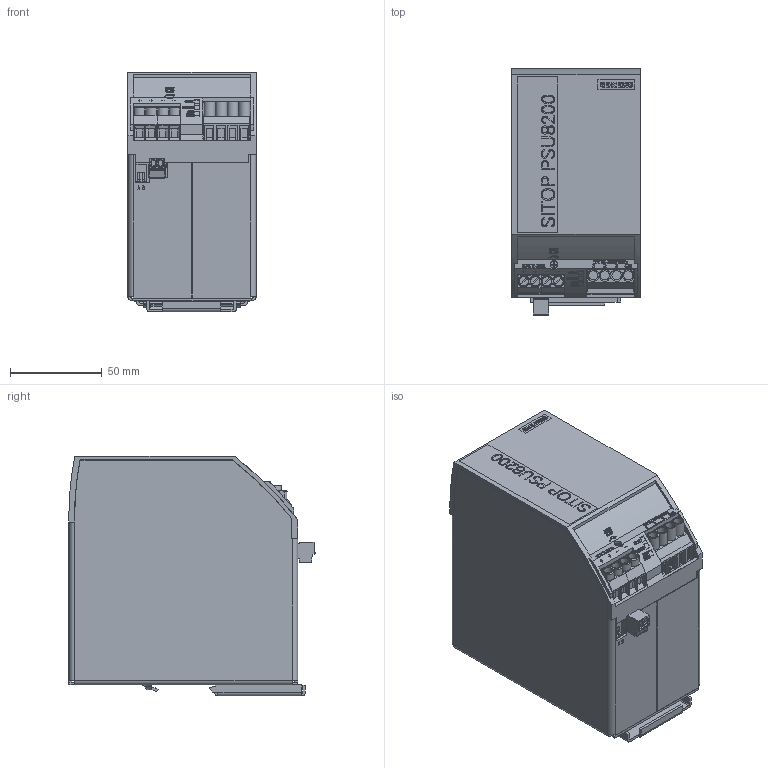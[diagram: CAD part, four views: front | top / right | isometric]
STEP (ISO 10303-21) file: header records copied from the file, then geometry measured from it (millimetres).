
FILE_DESCRIPTION( ( 'Unknown' ), '1' );
FILE_NAME( 'S:/Internet Appearance - SITOP RTC PSU8200 20A/6ep34468sb000ay0_001/6ep34468sb000ay0_001_stp.stp', 'Unknown', ( 'Unknown' ), ( 'Unknown' ), 'PSStep 17.0.49', 'Unknown', ' ' );
FILE_SCHEMA( ( 'AUTOMOTIVE_DESIGN { 1 0 10303 214 1 1 1 1 }' ) );
Length unit declared in the file: millimetre
Products named in the file (112): C98043-A7674-L003_3; tht_conn_2pol_RM3.81_725000,tht_conn_2pol_RM3.81_725000; Dip_switch_2pol; R337_WIPKB_500R0; A5F00137514_Front Mask PSU8200 20A3p_0; A5F00137516_Front Mask PSU8200 20A3p; Designstreifen_SITOP_PSU8200; C98043-A7673-L003_3; tht_conn_2pol_RM6.35_2150000,tht_conn_2pol_RM6.35_2150000; MKDS5_4_6,35_600V_var1; 6ep34468sb000ay0_001_stp; A5F00137512_Light Guide PSU8200 20A3p; A5E36075639D_Laserlabeling SITOP PSU8200 48V 10A 3ph; C98130-A7538-C031-xx; A5F00137524_Housing PSU8200 20A3p; C98130-A7538-C033; MC 1,5-2-ST-3,81_1803578; Assem1
Assembly tree (112 placements, depth 4):
  Assem1
    6ep34468sb000ay0_001_stp
      A5F00137512_Light Guide PSU8200 20A3p
      A5F00137512_Light Guide PSU8200 20A3p
      A5F00137512_Light Guide PSU8200 20A3p
      A5E36075639D_Laserlabeling SITOP PSU8200 48V 10A 3ph
      A5E36075639D_Laserlabeling SITOP PSU8200 48V 10A 3ph
      A5E36075639D_Laserlabeling SITOP PSU8200 48V 10A 3ph
      A5E36075639D_Laserlabeling SITOP PSU8200 48V 10A 3ph
      A5E36075639D_Laserlabeling SITOP PSU8200 48V 10A 3ph
      A5E36075639D_Laserlabeling SITOP PSU8200 48V 10A 3ph
      A5E36075639D_Laserlabeling SITOP PSU8200 48V 10A 3ph
      A5E36075639D_Laserlabeling SITOP PSU8200 48V 10A 3ph
      A5E36075639D_Laserlabeling SITOP PSU8200 48V 10A 3ph
      A5E36075639D_Laserlabeling SITOP PSU8200 48V 10A 3ph
      A5E36075639D_Laserlabeling SITOP PSU8200 48V 10A 3ph
      A5E36075639D_Laserlabeling SITOP PSU8200 48V 10A 3ph
      A5E36075639D_Laserlabeling SITOP PSU8200 48V 10A 3ph
      A5E36075639D_Laserlabeling SITOP PSU8200 48V 10A 3ph
      A5E36075639D_Laserlabeling SITOP PSU8200 48V 10A 3ph
      A5E36075639D_Laserlabeling SITOP PSU8200 48V 10A 3ph
      A5E36075639D_Laserlabeling SITOP PSU8200 48V 10A 3ph
      A5E36075639D_Laserlabeling SITOP PSU8200 48V 10A 3ph
      A5E36075639D_Laserlabeling SITOP PSU8200 48V 10A 3ph
      A5E36075639D_Laserlabeling SITOP PSU8200 48V 10A 3ph
      A5E36075639D_Laserlabeling SITOP PSU8200 48V 10A 3ph
      A5E36075639D_Laserlabeling SITOP PSU8200 48V 10A 3ph
      A5E36075639D_Laserlabeling SITOP PSU8200 48V 10A 3ph
      A5E36075639D_Laserlabeling SITOP PSU8200 48V 10A 3ph
      A5E36075639D_Laserlabeling SITOP PSU8200 48V 10A 3ph
      A5E36075639D_Laserlabeling SITOP PSU8200 48V 10A 3ph
      A5E36075639D_Laserlabeling SITOP PSU8200 48V 10A 3ph
      A5E36075639D_Laserlabeling SITOP PSU8200 48V 10A 3ph
      A5E36075639D_Laserlabeling SITOP PSU8200 48V 10A 3ph
      A5E36075639D_Laserlabeling SITOP PSU8200 48V 10A 3ph
      A5E36075639D_Laserlabeling SITOP PSU8200 48V 10A 3ph
      A5E36075639D_Laserlabeling SITOP PSU8200 48V 10A 3ph
      A5E36075639D_Laserlabeling SITOP PSU8200 48V 10A 3ph
      A5E36075639D_Laserlabeling SITOP PSU8200 48V 10A 3ph
      A5E36075639D_Laserlabeling SITOP PSU8200 48V 10A 3ph
      A5E36075639D_Laserlabeling SITOP PSU8200 48V 10A 3ph
      A5E36075639D_Laserlabeling SITOP PSU8200 48V 10A 3ph
      A5E36075639D_Laserlabeling SITOP PSU8200 48V 10A 3ph
      A5E36075639D_Laserlabeling SITOP PSU8200 48V 10A 3ph
      A5E36075639D_Laserlabeling SITOP PSU8200 48V 10A 3ph
      A5E36075639D_Laserlabeling SITOP PSU8200 48V 10A 3ph
      A5E36075639D_Laserlabeling SITOP PSU8200 48V 10A 3ph
      A5E36075639D_Laserlabeling SITOP PSU8200 48V 10A 3ph
      A5E36075639D_Laserlabeling SITOP PSU8200 48V 10A 3ph
      A5E36075639D_Laserlabeling SITOP PSU8200 48V 10A 3ph
      A5E36075639D_Laserlabeling SITOP PSU8200 48V 10A 3ph
      A5E36075639D_Laserlabeling SITOP PSU8200 48V 10A 3ph
      A5E36075639D_Laserlabeling SITOP PSU8200 48V 10A 3ph
      A5E36075639D_Laserlabeling SITOP PSU8200 48V 10A 3ph
      A5E36075639D_Laserlabeling SITOP PSU8200 48V 10A 3ph
      A5E36075639D_Laserlabeling SITOP PSU8200 48V 10A 3ph
      A5E36075639D_Laserlabeling SITOP PSU8200 48V 10A 3ph
      A5E36075639D_Laserlabeling SITOP PSU8200 48V 10A 3ph
      A5E36075639D_Laserlabeling SITOP PSU8200 48V 10A 3ph
      A5E36075639D_Laserlabeling SITOP PSU8200 48V 10A 3ph
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Bounding box: 70 x 134.5 x 131.02 mm (x, y, z)
Volume: 111425.3 mm3; surface area: 144369.8 mm2
Topology: 108 solids, 108 shells, 2090 faces, 5238 edges, 3449 vertices
Faces by surface type: plane 1577, cylinder 273, extrusion 168, torus 27, bspline 24, cone 17, sphere 4
Full cylindrical faces by diameter (mm): 0.457 x2, 1 x4, 1.1 x1, 1.3 x4, 1.6 x1, 1.75 x1, 1.99 x1, 2.8 x2, 2.9 x2, 4 x1, 5 x8, 5.2 x4
Entity records: 86739 total; most frequent: CARTESIAN_POINT 23903, ORIENTED_EDGE 9480, DIRECTION 8821, EDGE_CURVE 4740, VECTOR 3745, LINE 3577, VERTEX_POINT 3160, AXIS2_PLACEMENT_3D 2538
